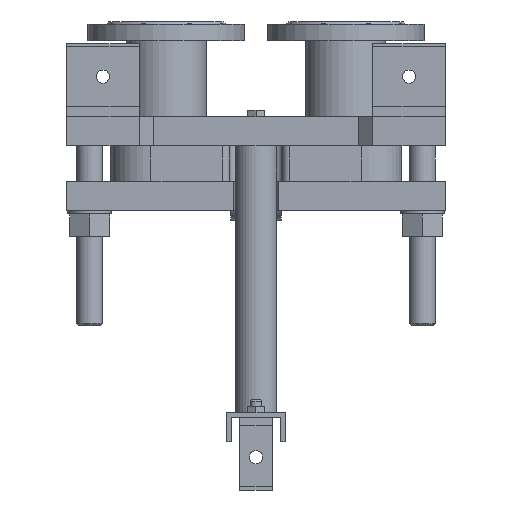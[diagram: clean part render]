
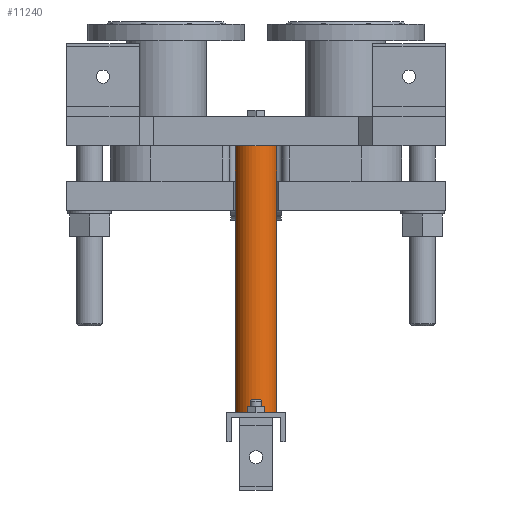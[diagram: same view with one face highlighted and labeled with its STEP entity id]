
A CAD part, front view. The second image highlights one B-rep face of the part: STEP entity #11240.
In plain terms, the highlighted cylindrical face has radius 28.5 mm (diameter 57 mm), a full revolution.
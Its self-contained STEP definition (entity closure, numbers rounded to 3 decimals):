
#781=LINE('',#22043,#1754);
#1754=VECTOR('',#14569,28.5);
#2333=CYLINDRICAL_SURFACE('',#12263,28.5);
#2995=FACE_OUTER_BOUND('',#3777,.T.);
#3777=EDGE_LOOP('',(#9013,#9014,#9015,#9016));
#4462=CIRCLE('',#12264,28.5);
#4463=CIRCLE('',#12265,28.5);
#5286=VERTEX_POINT('',#22040);
#5287=VERTEX_POINT('',#22042);
#6596=EDGE_CURVE('',#5286,#5286,#4462,.T.);
#6597=EDGE_CURVE('',#5286,#5287,#781,.T.);
#6598=EDGE_CURVE('',#5287,#5287,#4463,.T.);
#9013=ORIENTED_EDGE('',*,*,#6596,.F.);
#9014=ORIENTED_EDGE('',*,*,#6597,.T.);
#9015=ORIENTED_EDGE('',*,*,#6598,.T.);
#9016=ORIENTED_EDGE('',*,*,#6597,.F.);
#11240=ADVANCED_FACE('',(#2995),#2333,.T.);
#12263=AXIS2_PLACEMENT_3D('',#22039,#14565,#14566);
#12264=AXIS2_PLACEMENT_3D('',#22041,#14567,#14568);
#12265=AXIS2_PLACEMENT_3D('',#22044,#14570,#14571);
#14565=DIRECTION('center_axis',(0.,0.,
-1.));
#14566=DIRECTION('ref_axis',(-1.,0.,0.));
#14567=DIRECTION('center_axis',(0.,0.,
-1.));
#14568=DIRECTION('ref_axis',(-1.,0.,0.));
#14569=DIRECTION('',(0.,0.,1.));
#14570=DIRECTION('center_axis',(0.,0.,
-1.));
#14571=DIRECTION('ref_axis',(-1.,0.,0.));
#22039=CARTESIAN_POINT('Origin',(0.,215.,0.));
#22040=CARTESIAN_POINT('',(28.5,215.,-366.));
#22041=CARTESIAN_POINT('Origin',(0.,215.,-366.));
#22042=CARTESIAN_POINT('',(28.5,215.,0.));
#22043=CARTESIAN_POINT('',(28.5,215.,0.));
#22044=CARTESIAN_POINT('Origin',(0.,215.,0.));
